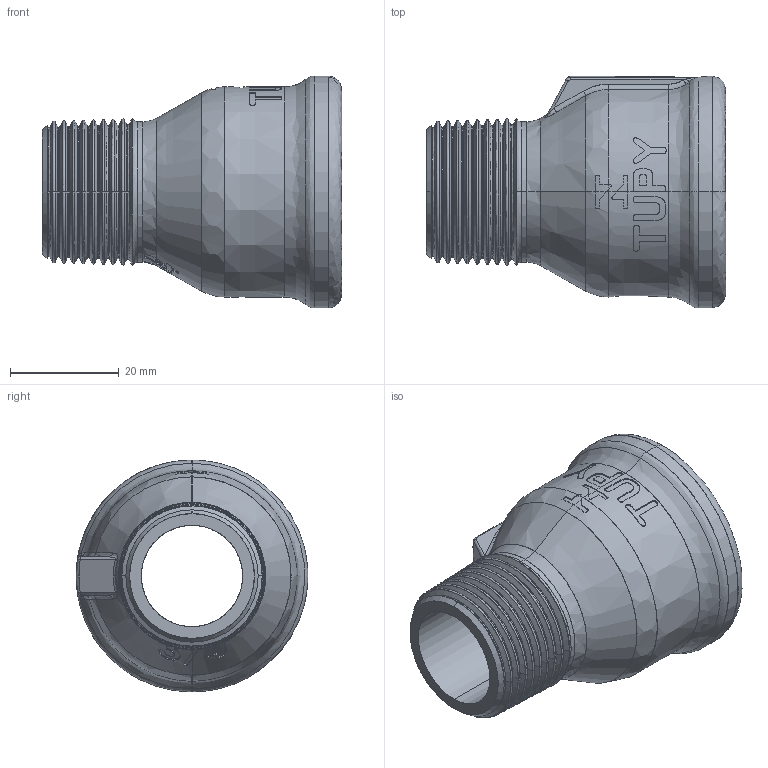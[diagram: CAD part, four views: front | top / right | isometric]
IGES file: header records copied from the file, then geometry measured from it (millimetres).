
Start section: SolidWorks IGES file using analytic representation for surfaces
Global section: file name: C:\Users\Joel Rosa\Desktop\Tubulação\12-35-OK\12-35-033.IGS; native system: SolidWorks 2011; preprocessor: SolidWorks 2011; author: Joel Rosa; date: 121209.031202; units: millimetre
Bounding box: 55 x 42.6 x 42.6 mm (x, y, z)
Surface area: 13355.2 mm2 (no closed solid volume)
Topology: 0 solids, 0 shells, 368 faces, 3245 edges, 3243 vertices
Faces by surface type: bspline 257, revolution 111
